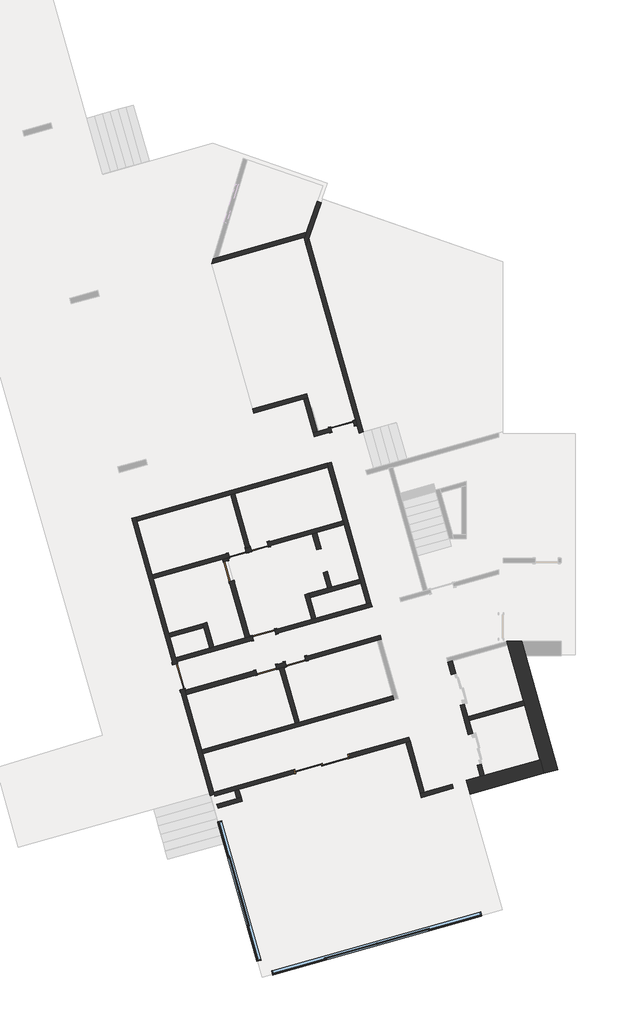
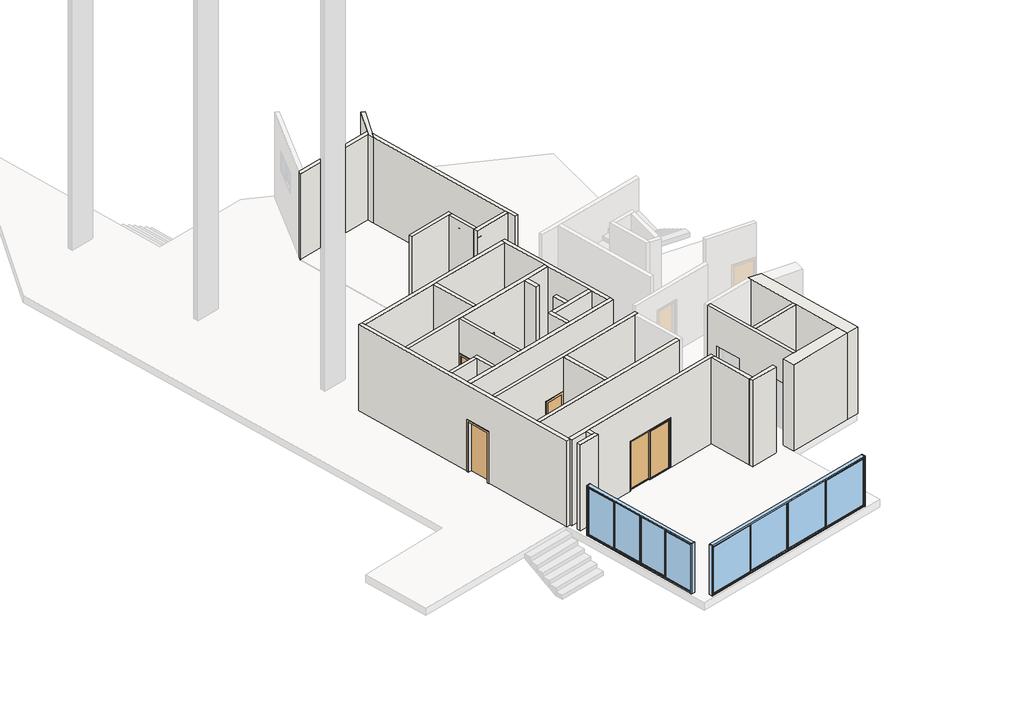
# One storey, part 1 of 2: 31 walls, 9 doors, 2 windows.
"""IFC4 building model written with IfcOpenShell, lengths in millimetres."""

from ifc_helpers import new_model, si_unit, frame, origin, place, context, project, spatial, polyline, outline, extrude, faceted_brep, transform, mapped, element, save
from components import door_0_60_x_2_10_b4560ae4, door_0_60_x_2_10_78c4625d, door_0_90_x_2_10_7c6ad79f, p2_80cm_9d4be4ef, p2_80cm_083652d6, p3_70cm_ef4d15e3, p3_70cm_0a698c7c, p4_correr_200cm_830b8f20, window_5_00_x_2_10m_6df3651b, window_7_50_x_2_10m_947141e8

model = new_model("IFC4")

# Units and contexts
model_context = context("Model", 3, world=origin())
ifc_project = project(units=[si_unit("LENGTHUNIT", "METRE", prefix="MILLI")], contexts=[model_context])

# Site, building, storey
site = spatial("IfcSite", under=ifc_project)
building = spatial("IfcBuilding", under=site)
storey = spatial("IfcBuildingStorey", under=building, Name="Área de Lazer", Elevation=32650.0)

# Doors
placement = place(None, origin())
door_0_60_x_2_10_shape = door_0_60_x_2_10_b4560ae4(model_context)
element("IfcDoor", 1, ObjectType="M_Folha única1 : 0.60 x 2.10", at=placement, inside=storey, context=model_context, shape_type="MappedRepresentation", body=[
    mapped(door_0_60_x_2_10_shape, transform((-84172.7077525, 20336.3698944, 32650.0), x_axis=(0.962362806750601, 0.27176796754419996, 0.0), y_axis=(-0.27176796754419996, 0.962362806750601, 0.0), z_axis=(0.0, 0.0, 1.0))),
])
door_0_60_x_2_10_2_shape = door_0_60_x_2_10_78c4625d(model_context)
element("IfcDoor", 2, ObjectType="M_Folha única1 : 0.60 x 2.10", at=placement, inside=storey, context=model_context, shape_type="MappedRepresentation", body=[
    mapped(door_0_60_x_2_10_2_shape, transform((-83412.4411352, 20551.0665888, 32650.0), x_axis=(-0.962362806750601, -0.27176796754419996, 0.0), y_axis=(0.27176796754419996, -0.962362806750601, 0.0), z_axis=(0.0, 0.0, 1.0))),
])
door_0_90_x_2_10_shape = door_0_90_x_2_10_7c6ad79f(model_context)
element("IfcDoor", 3, ObjectType="M_Folha única1 : 0.90 x 2.10", at=placement, inside=storey, context=model_context, shape_type="MappedRepresentation", body=[
    mapped(door_0_90_x_2_10_shape, transform((-86192.82651, 16064.6639495, 32650.0), x_axis=(0.27176796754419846, -0.9623628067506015, 0.0), y_axis=(0.9623628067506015, 0.27176796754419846, 0.0), z_axis=(0.0, 0.0, 1.0))),
])
p2_80cm_shape = p2_80cm_9d4be4ef(model_context)
element("IfcDoor", 4, ObjectType="M_Folha única1 : P2 - 80CM", at=placement, inside=storey, context=model_context, shape_type="MappedRepresentation", body=[
    mapped(p2_80cm_shape, transform((-83249.025766, 17507.0548871, 32650.0), x_axis=(-0.962362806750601, -0.27176796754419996, 0.0), y_axis=(0.27176796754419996, -0.962362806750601, 0.0), z_axis=(0.0, 0.0, 1.0))),
])
p2_80cm_2_shape = p2_80cm_083652d6(model_context)
element("IfcDoor", 5, ObjectType="M_Folha única1 : P2 - 80CM", at=placement, inside=storey, context=model_context, shape_type="MappedRepresentation", body=[
    mapped(p2_80cm_2_shape, transform((-80543.9086701, 24700.2882904, 32650.0), x_axis=(0.9623628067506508, 0.2717679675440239, 0.0), y_axis=(-0.2717679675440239, 0.9623628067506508, 0.0), z_axis=(0.0, 0.0, 1.0))),
])
p3_70cm_shape = p3_70cm_ef4d15e3(model_context)
element("IfcDoor", 6, ObjectType="M_Folha única1 : P3 - 70CM", at=placement, inside=storey, context=model_context, shape_type="MappedRepresentation", body=[
    mapped(p3_70cm_shape, transform((-82159.496905, 16592.5907765, 32650.0), x_axis=(-0.9623628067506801, -0.2717679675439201, 0.0), y_axis=(0.2717679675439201, -0.9623628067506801, 0.0), z_axis=(0.0, 0.0, 1.0))),
])
element("IfcDoor", 7, ObjectType="M_Folha única1 : P3 - 70CM", at=placement, inside=storey, context=model_context, shape_type="MappedRepresentation", body=[
    mapped(p3_70cm_shape, transform((-84467.9046466, 19707.4749956, 32650.0), x_axis=(-0.27176796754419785, 0.9623628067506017, 0.0), y_axis=(-0.9623628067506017, -0.27176796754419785, 0.0), z_axis=(0.0, 0.0, 1.0))),
])
p3_70cm_2_shape = p3_70cm_0a698c7c(model_context)
element("IfcDoor", 8, ObjectType="M_Folha única1 : P3 - 70CM", at=placement, inside=storey, context=model_context, shape_type="MappedRepresentation", body=[
    mapped(p3_70cm_2_shape, transform((-83169.9778521, 16307.2344106, 32650.0), x_axis=(0.9623628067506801, 0.2717679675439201, 0.0), y_axis=(-0.2717679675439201, 0.9623628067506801, 0.0), z_axis=(0.0, 0.0, 1.0))),
])
p4_correr_200cm_shape = p4_correr_200cm_830b8f20(model_context)
element("IfcDoor", 9, ObjectType="Porta de correr dupla envidraçada sem revestimento : P4 - CORRER - 200CM", at=placement, inside=storey, context=model_context, shape_type="MappedRepresentation", body=[
    mapped(p4_correr_200cm_shape, transform((-81256.8800229, 13054.7382945, 32650.0), x_axis=(-0.9623628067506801, -0.27176796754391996, 0.0), y_axis=(0.27176796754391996, -0.9623628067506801, 0.0), z_axis=(0.0, 0.0, 1.0))),
])

# Walls
element("IfcWall", 10, ObjectType="Básica .15 -  Interna", at=placement, inside=storey, context=model_context, shape_type="Brep", body=[
    faceted_brep([(-81786.9883633, 30940.5321014, 32650.0), (-80088.4591475, 24906.8388654, 32650.0), (-80047.8128589, 24762.4508656, 32650.0), (-79965.5858086, 24470.3553321, 32650.0), (-79965.5858086, 24470.3553321, 36250.0), (-80047.8128589, 24762.4508656, 36250.0), (-80088.4591475, 24906.8388654, 36250.0), (-81786.9883633, 30940.5321014, 36250.0), (-81701.0418755, 31188.7802571, 32650.0), (-81701.0418755, 31188.7802571, 36250.0), (-79821.1978578, 24511.0016068, 36250.0), (-79821.1978578, 24511.0016068, 32650.0)], [[[0, 1, 2, 3, 4, 5, 6, 7]], [[8, 9, 10, 11]], [[3, 2, 1, 0, 8, 11]], [[4, 3, 11, 10]], [[7, 6, 5, 4, 10, 9]], [[0, 7, 9, 8]]]),
])
element("IfcWall", 11, ObjectType="Básica .15 -  Interna", at=placement, inside=storey, context=model_context, shape_type="Brep", body=[
    faceted_brep([(-80088.4591475, 24906.8388654, 32650.0), (-80179.346145, 24881.1726879, 32650.0), (-80179.346145, 24881.1726879, 34750.0), (-80949.2363904, 24663.7583139, 34750.0), (-80949.2363904, 24663.7583139, 32650.0), (-81413.0534441, 24532.7779631, 32650.0), (-81557.4078823, 24492.0127631, 32650.0), (-81557.4078823, 24492.0127631, 36250.0), (-81413.0534441, 24532.7779631, 36250.0), (-80088.4591475, 24906.8388654, 36250.0), (-80138.5809498, 24736.8182669, 34750.0), (-80138.5809498, 24736.8182669, 32650.0), (-80047.8128589, 24762.4508656, 32650.0), (-80047.8128589, 24762.4508656, 36250.0), (-81516.5721347, 24347.6782659, 36250.0), (-81516.5721347, 24347.6782659, 32650.0), (-80908.4711952, 24519.4038929, 32650.0), (-80908.4711952, 24519.4038929, 34750.0)], [[[0, 1, 2, 3, 4, 5, 6, 7, 8, 9]], [[10, 11, 12, 13, 14, 15, 16, 17]], [[16, 15, 6, 5, 4]], [[12, 11, 1, 0]], [[9, 8, 7, 14, 13]], [[7, 6, 15, 14]], [[0, 9, 13, 12]], [[2, 1, 11, 10]], [[3, 2, 10, 17]], [[4, 3, 17, 16]]]),
])
element("IfcWall", 12, ObjectType="Básica .15 -  Interna", at=placement, inside=storey, context=model_context, shape_type="Brep", body=[
    faceted_brep([(-83598.7931938, 25162.3109665, 32650.0), (-81884.0538978, 25646.5474832, 32650.0), (-81739.6994596, 25687.3126832, 32650.0), (-81739.6994596, 25687.3126832, 36250.0), (-81884.0538978, 25646.5474832, 36250.0), (-83598.7931938, 25162.3109665, 36250.0), (-83639.5583889, 25306.6653875, 32650.0), (-83639.5583889, 25306.6653875, 36250.0), (-81780.5352072, 25831.6471804, 36250.0), (-81780.5352072, 25831.6471804, 32650.0)], [[[0, 1, 2, 3, 4, 5]], [[6, 7, 8, 9]], [[2, 1, 0, 6, 9]], [[5, 4, 3, 8, 7]], [[0, 5, 7, 6]], [[3, 2, 9, 8]]]),
])
element("IfcWall", 13, ObjectType="Básica .15 -  Interna", at=placement, inside=storey, context=model_context, shape_type="SweptSolid", body=[
    extrude(outline(polyline([(-81557.4078823, 24492.0127631), (-81884.0538978, 25646.5474832), (-81739.6994596, 25687.3126832), (-81413.0534441, 24532.7779631), (-81557.4078823, 24492.0127631)])), frame((0.0, 0.0, 32650.0), z_axis=(0.0, 0.0, 1.0), x_axis=(1.0, 0.0, 0.0)), (0.0, 0.0, 1.0), 3600.0),
])
element("IfcWall", 14, ObjectType="Básica .15 -  Interna", at=placement, inside=storey, context=model_context, shape_type="Brep", body=[
    faceted_brep([(-81786.1608388, 31401.4141059, 32650.0), (-84835.9383396, 30540.1673629, 32650.0), (-85007.1370087, 30491.8214439, 32650.0), (-85007.1370087, 30491.8214439, 36250.0), (-84835.9383396, 30540.1673629, 36250.0), (-81786.1608388, 31401.4141059, 36250.0), (-81845.9712553, 31228.6574759, 32650.0), (-81845.9712553, 31228.6574759, 36250.0), (-85058.4086835, 30321.4761254, 36250.0), (-85058.4086835, 30321.4761254, 32650.0)], [[[0, 1, 2, 3, 4, 5]], [[6, 7, 8, 9]], [[2, 1, 0, 6, 9]], [[5, 4, 3, 8, 7]], [[3, 2, 9, 8]], [[0, 5, 7, 6]]]),
])
element("IfcWall", 15, ObjectType="Básica .15 - Externa", at=placement, inside=storey, context=model_context, shape_type="Brep", body=[
    faceted_brep([(-86142.7081351, 15611.2180889, 34750.0), (-86142.7081351, 15611.2180889, 32650.0), (-85113.2313311, 11965.717865, 32650.0), (-85113.2313311, 11965.717865, 36250.0), (-87814.192223, 21530.1427245, 36250.0), (-87814.192223, 21530.1427245, 32650.0), (-86387.2993059, 16477.3446149, 32650.0), (-86387.2993059, 16477.3446149, 34750.0), (-84968.8769101, 12006.4830601, 32650.0), (-84989.2595077, 12078.6602706, 32650.0), (-85363.2517168, 13403.0113166, 32650.0), (-85404.0169119, 13547.3657376, 32650.0), (-85940.4473941, 15446.9300942, 32650.0), (-85981.2125892, 15591.2845152, 32650.0), (-85998.3537141, 15651.983284, 32650.0), (-85998.3537141, 15651.983284, 34750.0), (-86242.9448849, 16518.1098101, 34750.0), (-86242.9448849, 16518.1098101, 32650.0), (-86260.0860097, 16578.8085788, 32650.0), (-86300.8512048, 16723.1629998, 32650.0), (-86499.2418212, 17425.6878488, 32650.0), (-86540.0070163, 17570.0422698, 32650.0), (-87068.2844594, 19440.7357422, 32650.0), (-87109.0496545, 19585.0901632, 32650.0), (-87629.0726068, 21426.5534986, 32650.0), (-87669.837802, 21570.9079196, 32650.0), (-87669.837802, 21570.9079196, 36250.0), (-87629.0726068, 21426.5534986, 36250.0), (-87109.0496545, 19585.0901632, 36250.0), (-87068.2844594, 19440.7357422, 36250.0), (-86540.0070163, 17570.0422698, 36250.0), (-86499.2418212, 17425.6878488, 36250.0), (-86300.8512048, 16723.1629998, 36250.0), (-86260.0860097, 16578.8085788, 36250.0), (-85981.2125892, 15591.2845152, 36250.0), (-85940.4473941, 15446.9300942, 36250.0), (-85404.0169119, 13547.3657376, 36250.0), (-85363.2517168, 13403.0113166, 36250.0), (-84989.2595077, 12078.6602706, 36250.0), (-84968.8769101, 12006.4830601, 36250.0)], [[[0, 1, 2, 3, 4, 5, 6, 7]], [[8, 9, 10, 11, 12, 13, 14, 15, 16, 17, 18, 19, 20, 21, 22, 23, 24, 25, 26, 27, 28, 29, 30, 31, 32, 33, 34, 35, 36, 37, 38, 39]], [[6, 5, 25, 24, 23, 22, 21, 20, 19, 18, 17]], [[2, 1, 14, 13, 12, 11, 10, 9, 8]], [[3, 2, 8, 39]], [[4, 3, 39, 38, 37, 36, 35, 34, 33, 32, 31, 30, 29, 28, 27, 26]], [[5, 4, 26, 25]], [[15, 14, 1, 0]], [[16, 15, 0, 7]], [[17, 16, 7, 6]]]),
])
element("IfcWall", 16, ObjectType="Básica .15 -  Interna", at=placement, inside=storey, context=model_context, shape_type="Brep", body=[
    faceted_brep([(-86260.0860097, 16578.8085788, 32650.0), (-83613.5882911, 17326.1704896, 32650.0), (-83613.5882911, 17326.1704896, 34750.0), (-82843.6980457, 17543.5848636, 34750.0), (-82843.6980457, 17543.5848636, 32650.0), (-79523.5463625, 18481.1843516, 32650.0), (-79523.5463625, 18481.1843516, 36250.0), (-86260.0860097, 16578.8085788, 36250.0), (-83654.3534863, 17470.5249106, 34750.0), (-83654.3534863, 17470.5249106, 32650.0), (-83750.589767, 17443.3481138, 32650.0), (-83894.944188, 17402.5829187, 32650.0), (-84986.2353871, 17094.4060138, 32650.0), (-85130.5898082, 17053.6408186, 32650.0), (-86300.8512048, 16723.1629998, 32650.0), (-86300.8512048, 16723.1629998, 36250.0), (-85130.5898082, 17053.6408186, 36250.0), (-84986.2353871, 17094.4060138, 36250.0), (-83894.944188, 17402.5829187, 36250.0), (-83750.589767, 17443.3481138, 36250.0), (-81605.5069404, 18049.1121728, 36250.0), (-81461.1525194, 18089.8773679, 36250.0), (-79708.6659786, 18584.7735775, 36250.0), (-79564.3115576, 18625.5387727, 36250.0), (-79564.3115576, 18625.5387727, 32650.0), (-79708.6659786, 18584.7735775, 32650.0), (-81461.1525194, 18089.8773679, 32650.0), (-81605.5069404, 18049.1121728, 32650.0), (-82884.4632409, 17687.9392846, 32650.0), (-82884.4632409, 17687.9392846, 34750.0)], [[[0, 1, 2, 3, 4, 5, 6, 7]], [[8, 9, 10, 11, 12, 13, 14, 15, 16, 17, 18, 19, 20, 21, 22, 23, 24, 25, 26, 27, 28, 29]], [[28, 27, 26, 25, 24, 5, 4]], [[14, 13, 12, 11, 10, 9, 1, 0]], [[7, 6, 23, 22, 21, 20, 19, 18, 17, 16, 15]], [[6, 5, 24, 23]], [[0, 7, 15, 14]], [[2, 1, 9, 8]], [[3, 2, 8, 29]], [[4, 3, 29, 28]]]),
])
element("IfcWall", 17, ObjectType="Básica .15 -  Interna", at=placement, inside=storey, context=model_context, shape_type="Brep", body=[
    faceted_brep([(-79564.3115576, 18625.5387727, 32650.0), (-80933.2981547, 23473.2836924, 32650.0), (-80933.2981547, 23473.2836924, 36250.0), (-79564.3115576, 18625.5387727, 36250.0), (-79708.6659786, 18584.7735775, 32650.0), (-79708.6659786, 18584.7735775, 36250.0), (-79907.0565949, 19287.2984265, 36250.0), (-79947.82179, 19431.6528475, 36250.0), (-80476.0992332, 21302.3463199, 36250.0), (-80516.8644283, 21446.7007409, 36250.0), (-81036.8873806, 23288.1640763, 36250.0), (-81077.6525757, 23432.5184973, 36250.0), (-81077.6525757, 23432.5184973, 32650.0), (-81036.8873806, 23288.1640763, 32650.0), (-80516.8644283, 21446.7007409, 32650.0), (-80476.0992332, 21302.3463199, 32650.0), (-79947.82179, 19431.6528475, 32650.0), (-79907.0565949, 19287.2984265, 32650.0)], [[[0, 1, 2, 3]], [[4, 5, 6, 7, 8, 9, 10, 11, 12, 13, 14, 15, 16, 17]], [[1, 0, 4, 17, 16, 15, 14, 13, 12]], [[3, 2, 11, 10, 9, 8, 7, 6, 5]], [[0, 3, 5, 4]], [[2, 1, 12, 11]]]),
])
element("IfcWall", 18, ObjectType="Básica .15 -  Interna", at=placement, inside=storey, context=model_context, shape_type="Brep", body=[
    faceted_brep([(-81077.6525757, 23432.5184973, 32650.0), (-87669.837802, 21570.9079196, 32650.0), (-87669.837802, 21570.9079196, 36250.0), (-81077.6525757, 23432.5184973, 36250.0), (-81036.8873806, 23288.1640763, 32650.0), (-81036.8873806, 23288.1640763, 36250.0), (-84260.8027832, 22377.741385, 36250.0), (-84405.1572042, 22336.9761899, 36250.0), (-87629.0726068, 21426.5534986, 36250.0), (-87629.0726068, 21426.5534986, 32650.0), (-84405.1572042, 22336.9761899, 32650.0), (-84260.8027832, 22377.741385, 32650.0)], [[[0, 1, 2, 3]], [[4, 5, 6, 7, 8, 9, 10, 11]], [[1, 0, 4, 11, 10, 9]], [[3, 2, 8, 7, 6, 5]], [[2, 1, 9, 8]], [[0, 3, 5, 4]]]),
])
element("IfcWall", 19, ObjectType="Básica .15 -  Interna", at=placement, inside=storey, context=model_context, shape_type="Brep", body=[
    faceted_brep([(-82812.7682722, 16330.1759887, 32650.0), (-82716.5319915, 16357.3527855, 32650.0), (-82572.1775705, 16398.1179806, 32650.0), (-82475.9412898, 16425.2947774, 32650.0), (-82475.9412898, 16425.2947774, 34750.0), (-81802.2873251, 16615.5323547, 34750.0), (-81802.2873251, 16615.5323547, 32650.0), (-79348.2621678, 17308.5406719, 32650.0), (-79203.9077468, 17349.305867, 32650.0), (-79203.9077468, 17349.305867, 36250.0), (-79348.2621678, 17308.5406719, 36250.0), (-82572.1775705, 16398.1179806, 36250.0), (-82716.5319915, 16357.3527855, 36250.0), (-85940.4473941, 15446.9300942, 36250.0), (-85940.4473941, 15446.9300942, 32650.0), (-83486.4222369, 16139.9384115, 32650.0), (-83486.4222369, 16139.9384115, 34750.0), (-82812.7682722, 16330.1759887, 34750.0), (-82516.7064849, 16569.6491984, 34750.0), (-82516.7064849, 16569.6491984, 32650.0), (-82853.5334673, 16474.5304097, 32650.0), (-82853.5334673, 16474.5304097, 34750.0), (-83527.187432, 16284.2928325, 34750.0), (-83527.187432, 16284.2928325, 32650.0), (-85981.2125892, 15591.2845152, 32650.0), (-85981.2125892, 15591.2845152, 36250.0), (-79244.672942, 17493.660288, 36250.0), (-79244.672942, 17493.660288, 32650.0), (-81843.0525202, 16759.8867757, 32650.0), (-81843.0525202, 16759.8867757, 34750.0)], [[[0, 1, 2, 3, 4, 5, 6, 7, 8, 9, 10, 11, 12, 13, 14, 15, 16, 17]], [[18, 19, 20, 21, 22, 23, 24, 25, 26, 27, 28, 29]], [[15, 14, 24, 23]], [[28, 27, 8, 7, 6]], [[20, 19, 3, 2, 1, 0]], [[13, 12, 11, 10, 9, 26, 25]], [[9, 8, 27, 26]], [[14, 13, 25, 24]], [[21, 20, 0, 17]], [[22, 21, 17, 16]], [[23, 22, 16, 15]], [[4, 3, 19, 18]], [[5, 4, 18, 29]], [[6, 5, 29, 28]]]),
])
element("IfcWall", 20, ObjectType="Básica .15 -  Interna", at=placement, inside=storey, context=model_context, shape_type="Brep", body=[
    faceted_brep([(-78811.8316857, 15408.9763152, 32650.0), (-82035.7470883, 14498.553624, 32650.0), (-82180.1015093, 14457.7884288, 32650.0), (-85404.0169119, 13547.3657376, 32650.0), (-85404.0169119, 13547.3657376, 36250.0), (-82180.1015093, 14457.7884288, 36250.0), (-82035.7470883, 14498.553624, 36250.0), (-78811.8316857, 15408.9763152, 36250.0), (-78771.0664906, 15264.6218942, 32650.0), (-78771.0664906, 15264.6218942, 36250.0), (-85363.2517168, 13403.0113166, 36250.0), (-85363.2517168, 13403.0113166, 32650.0)], [[[0, 1, 2, 3, 4, 5, 6, 7]], [[8, 9, 10, 11]], [[3, 2, 1, 0, 8, 11]], [[7, 6, 5, 4, 10, 9]], [[0, 7, 9, 8]], [[4, 3, 11, 10]]]),
])
element("IfcWall", 21, ObjectType="Básica .15 -  Interna", at=placement, inside=storey, context=model_context, shape_type="Brep", body=[
    faceted_brep([(-84832.9929264, 11525.3016567, 32650.0), (-84001.1843782, 11760.2015478, 32650.0), (-84001.1843782, 11760.2015478, 36250.0), (-84832.9929264, 11525.3016567, 36250.0), (-84873.7581215, 11669.6560777, 32650.0), (-84873.7581215, 11669.6560777, 36250.0), (-84186.3039943, 11863.7907737, 36250.0), (-84041.9495733, 11904.5559688, 36250.0), (-84041.9495733, 11904.5559688, 32650.0), (-84186.3039943, 11863.7907737, 32650.0)], [[[0, 1, 2, 3]], [[4, 5, 6, 7, 8, 9]], [[1, 0, 4, 9, 8]], [[3, 2, 7, 6, 5]], [[2, 1, 8, 7]], [[0, 3, 5, 4]]]),
])
element("IfcWall", 22, ObjectType="Básica .15 -  Interna", at=placement, inside=storey, context=model_context, shape_type="SweptSolid", body=[
    extrude(outline(polyline([(-84116.6857644, 12169.2057407), (-84041.9495733, 11904.5559688), (-84186.3039943, 11863.7907737), (-84261.0401854, 12128.4405456), (-84116.6857644, 12169.2057407)])), frame((0.0, 0.0, 32650.0), z_axis=(0.0, 0.0, 1.0), x_axis=(1.0, 0.0, 0.0)), (0.0, 0.0, 1.0), 3600.0),
])
element("IfcWall", 23, ObjectType="Básica .15 -  Interna", at=placement, inside=storey, context=model_context, shape_type="Brep", body=[
    faceted_brep([(-78211.9546653, 13836.6816224, 36250.0), (-78356.3090863, 13795.9164273, 36250.0), (-84116.6857644, 12169.2057407, 36250.0), (-84261.0401854, 12128.4405456, 36250.0), (-84948.4943126, 11934.3058496, 36250.0), (-84948.4943126, 11934.3058496, 32650.0), (-84261.0401854, 12128.4405456, 32650.0), (-84116.6857644, 12169.2057407, 32650.0), (-82198.8602321, 12710.7931164, 32650.0), (-82198.8602321, 12710.7931164, 34750.0), (-80274.1346186, 13254.3290515, 34750.0), (-80274.1346186, 13254.3290515, 32650.0), (-78356.3090863, 13795.9164273, 32650.0), (-78211.9546653, 13836.6816224, 32650.0), (-84989.2595077, 12078.6602706, 36250.0), (-78252.7198604, 13981.0360434, 36250.0), (-78252.7198604, 13981.0360434, 32650.0), (-80314.8998137, 13398.6834725, 32650.0), (-80314.8998137, 13398.6834725, 34750.0), (-82239.6254272, 12855.1475374, 34750.0), (-82239.6254272, 12855.1475374, 32650.0), (-84989.2595077, 12078.6602706, 32650.0), (-84968.8769101, 12006.4830601, 32650.0), (-84968.8769101, 12006.4830601, 36250.0)], [[[0, 1, 2, 3, 4, 5, 6, 7, 8, 9, 10, 11, 12, 13]], [[14, 15, 16, 17, 18, 19, 20, 21]], [[16, 13, 12, 11, 17]], [[5, 22, 21, 20, 8, 7, 6]], [[4, 3, 2, 1, 0, 15, 14, 23]], [[0, 13, 16, 15]], [[19, 9, 8, 20]], [[9, 19, 18, 10]], [[10, 18, 17, 11]], [[5, 4, 23, 14, 21, 22]]]),
])
element("IfcWall", 24, ObjectType="Básica .15 -  Interna", at=placement, inside=storey, context=model_context, shape_type="Brep", body=[
    faceted_brep([(-76753.6153178, 12352.1374676, 32650.0), (-77715.9781245, 12080.3695001, 32650.0), (-77860.3325455, 12039.6043049, 32650.0), (-77860.3325455, 12039.6043049, 36250.0), (-77715.9781245, 12080.3695001, 36250.0), (-76753.6153178, 12352.1374676, 36250.0), (-76712.8501227, 12207.7830466, 32650.0), (-76712.8501227, 12207.7830466, 36250.0), (-77819.5673504, 11895.2498839, 36250.0), (-77819.5673504, 11895.2498839, 32650.0)], [[[0, 1, 2, 3, 4, 5]], [[6, 7, 8, 9]], [[2, 1, 0, 6, 9]], [[5, 4, 3, 8, 7]], [[3, 2, 9, 8]], [[0, 5, 7, 6]]]),
])
element("IfcWall", 25, ObjectType="Básica .15 -  Interna", at=placement, inside=storey, context=model_context, shape_type="SweptSolid", body=[
    extrude(outline(polyline([(-78211.9546653, 13836.6816224), (-77715.9781245, 12080.3695001), (-77860.3325455, 12039.6043049), (-78356.3090863, 13795.9164273), (-78211.9546653, 13836.6816224)])), frame((0.0, 0.0, 32650.0), z_axis=(0.0, 0.0, 1.0), x_axis=(1.0, 0.0, 0.0)), (0.0, 0.0, 1.0), 3600.0),
])
element("IfcWall", 26, ObjectType="Básica .15 -  Interna", at=placement, inside=storey, context=model_context, shape_type="Brep", body=[
    faceted_brep([(-83863.6163129, 20345.7230742, 32650.0), (-83680.7673796, 20397.358988, 32650.0), (-83680.7673796, 20397.358988, 34750.0), (-83103.3496956, 20560.4197685, 34750.0), (-83103.3496956, 20560.4197685, 32650.0), (-81582.8164609, 20989.8131572, 32650.0), (-81438.4620399, 21030.5783524, 32650.0), (-80476.0992332, 21302.3463199, 32650.0), (-80476.0992332, 21302.3463199, 36250.0), (-81438.4620399, 21030.5783524, 36250.0), (-81582.8164609, 20989.8131572, 36250.0), (-84518.0230215, 20160.9208562, 36250.0), (-84662.3774425, 20120.1556611, 36250.0), (-87068.2844594, 19440.7357422, 36250.0), (-87068.2844594, 19440.7357422, 32650.0), (-84662.3774425, 20120.1556611, 32650.0), (-84518.0230215, 20160.9208562, 32650.0), (-84441.033997, 20182.6622936, 32650.0), (-84441.033997, 20182.6622936, 34750.0), (-83863.6163129, 20345.7230742, 34750.0), (-83721.5325748, 20541.713409, 34750.0), (-83721.5325748, 20541.713409, 32650.0), (-83740.7798309, 20536.2780496, 32650.0), (-83885.1342519, 20495.5128545, 32650.0), (-83904.3815081, 20490.0774952, 32650.0), (-83904.3815081, 20490.0774952, 34750.0), (-84481.7991921, 20327.0167146, 34750.0), (-84481.7991921, 20327.0167146, 32650.0), (-87109.0496545, 19585.0901632, 32650.0), (-87109.0496545, 19585.0901632, 36250.0), (-83885.1342519, 20495.5128545, 36250.0), (-83740.7798309, 20536.2780496, 36250.0), (-80516.8644283, 21446.7007409, 36250.0), (-80516.8644283, 21446.7007409, 32650.0), (-83144.1148907, 20704.7741895, 32650.0), (-83144.1148907, 20704.7741895, 34750.0)], [[[0, 1, 2, 3, 4, 5, 6, 7, 8, 9, 10, 11, 12, 13, 14, 15, 16, 17, 18, 19]], [[20, 21, 22, 23, 24, 25, 26, 27, 28, 29, 30, 31, 32, 33, 34, 35]], [[17, 16, 15, 14, 28, 27]], [[34, 33, 7, 6, 5, 4]], [[24, 23, 22, 21, 1, 0]], [[13, 12, 11, 10, 9, 8, 32, 31, 30, 29]], [[14, 13, 29, 28]], [[8, 7, 33, 32]], [[25, 24, 0, 19]], [[26, 25, 19, 18]], [[27, 26, 18, 17]], [[2, 1, 21, 20]], [[3, 2, 20, 35]], [[4, 3, 35, 34]]]),
])
element("IfcWall", 27, ObjectType="Básica .15 -  Interna", at=placement, inside=storey, context=model_context, shape_type="SweptSolid", body=[
    extrude(outline(polyline([(-3.9811097, 0.0), (96.0188903, 0.0), (96.0188903, -2100.0), (796.0188903, -2100.0), (796.0188903, 0.0), (2819.873598, 0.0), (2819.873598, -3600.0), (-3.9811097, -3600.0), (-3.9811097, 0.0)])), frame((-84661.2955044, 20116.3243892, 32650.0), z_axis=(0.9623628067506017, 0.27176796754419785, 0.0), x_axis=(0.27176796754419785, -0.9623628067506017, 0.0)), (0.0, 0.0, 1.0), 150.0),
])
element("IfcWall", 28, ObjectType="Básica .15 -  Interna", at=placement, inside=storey, context=model_context, shape_type="Brep", body=[
    faceted_brep([(-81461.1525194, 18089.8773679, 32650.0), (-81659.5431357, 18792.4022168, 32650.0), (-81700.3083308, 18936.7566379, 32650.0), (-81700.3083308, 18936.7566379, 36250.0), (-81659.5431357, 18792.4022168, 36250.0), (-81461.1525194, 18089.8773679, 36250.0), (-81605.5069404, 18049.1121728, 32650.0), (-81605.5069404, 18049.1121728, 36250.0), (-81844.6627518, 18895.9914427, 36250.0), (-81844.6627518, 18895.9914427, 32650.0)], [[[0, 1, 2, 3, 4, 5]], [[6, 7, 8, 9]], [[2, 1, 0, 6, 9]], [[5, 4, 3, 8, 7]], [[0, 5, 7, 6]], [[3, 2, 9, 8]]]),
])
element("IfcWall", 29, ObjectType="Básica .15 -  Interna", at=placement, inside=storey, context=model_context, shape_type="Brep", body=[
    faceted_brep([(-81659.5431357, 18792.4022168, 32650.0), (-79907.0565949, 19287.2984265, 32650.0), (-79907.0565949, 19287.2984265, 36250.0), (-81659.5431357, 18792.4022168, 36250.0), (-81700.3083308, 18936.7566379, 32650.0), (-81700.3083308, 18936.7566379, 36250.0), (-81054.5390178, 19119.1196848, 36250.0), (-80910.1845968, 19159.8848799, 36250.0), (-79947.82179, 19431.6528475, 36250.0), (-79947.82179, 19431.6528475, 32650.0), (-80910.1845968, 19159.8848799, 32650.0), (-81054.5390178, 19119.1196848, 32650.0)], [[[0, 1, 2, 3]], [[4, 5, 6, 7, 8, 9, 10, 11]], [[1, 0, 4, 11, 10, 9]], [[3, 2, 8, 7, 6, 5]], [[0, 3, 5, 4]], [[2, 1, 9, 8]]]),
])
element("IfcWall", 30, ObjectType="Básica .15 -  Interna", at=placement, inside=storey, context=model_context, shape_type="Brep", body=[
    faceted_brep([(-84986.2353871, 17094.4060138, 32650.0), (-85225.3911986, 17941.2852837, 32650.0), (-85225.3911986, 17941.2852837, 36250.0), (-84986.2353871, 17094.4060138, 36250.0), (-85130.5898082, 17053.6408186, 32650.0), (-85130.5898082, 17053.6408186, 36250.0), (-85328.9804245, 17756.1656676, 36250.0), (-85369.7456196, 17900.5200886, 36250.0), (-85369.7456196, 17900.5200886, 32650.0), (-85328.9804245, 17756.1656676, 32650.0)], [[[0, 1, 2, 3]], [[4, 5, 6, 7, 8, 9]], [[1, 0, 4, 9, 8]], [[3, 2, 7, 6, 5]], [[0, 3, 5, 4]], [[2, 1, 8, 7]]]),
])
element("IfcWall", 31, ObjectType="Básica .15 -  Interna", at=placement, inside=storey, context=model_context, shape_type="SweptSolid", body=[
    extrude(outline(polyline([(-86540.0070163, 17570.0422698), (-85369.7456196, 17900.5200886), (-85328.9804245, 17756.1656676), (-86499.2418212, 17425.6878488), (-86540.0070163, 17570.0422698)])), frame((0.0, 0.0, 32650.0), z_axis=(0.0, 0.0, 1.0), x_axis=(1.0, 0.0, 0.0)), (0.0, 0.0, 1.0), 3600.0),
])
element("IfcWall", 32, ObjectType="Básica .15 -  Interna", at=placement, inside=storey, context=model_context, shape_type="SweptSolid", body=[
    extrude(outline(polyline([(-83885.1342519, 20495.5128545), (-84405.1572042, 22336.9761899), (-84260.8027832, 22377.741385), (-83740.7798309, 20536.2780496), (-83885.1342519, 20495.5128545)])), frame((0.0, 0.0, 32650.0), z_axis=(0.0, 0.0, 1.0), x_axis=(1.0, 0.0, 0.0)), (0.0, 0.0, 1.0), 3600.0),
])
element("IfcWall", 33, ObjectType="Básica .15 -  Interna", at=placement, inside=storey, context=model_context, shape_type="SweptSolid", body=[
    extrude(outline(polyline([(-82180.1015093, 14457.7884288), (-82716.5319915, 16357.3527855), (-82572.1775705, 16398.1179806), (-82035.7470883, 14498.553624), (-82180.1015093, 14457.7884288)])), frame((0.0, 0.0, 32650.0), z_axis=(0.0, 0.0, 1.0), x_axis=(1.0, 0.0, 0.0)), (0.0, 0.0, 1.0), 3600.0),
])
element("IfcWall", 34, ObjectType="Contenção 50cm - Externa", at=placement, inside=storey, context=model_context, shape_type="Brep", body=[
    faceted_brep([(-74880.8336236, 17296.1835253, 32650.0), (-74840.1397102, 17152.0815214, 32650.0), (-74296.6037751, 15227.3559079, 32650.0), (-74255.83858, 15083.0014869, 32650.0), (-73726.0904517, 13207.1001426, 32650.0), (-73590.2064679, 12725.9187392, 32650.0), (-73590.2064679, 12725.9187392, 36250.0), (-73726.0904517, 13207.1001426, 36250.0), (-74255.83858, 15083.0014869, 36250.0), (-74296.6037751, 15227.3559079, 36250.0), (-74840.1397102, 17152.0815214, 36250.0), (-74880.8336236, 17296.1835253, 36250.0), (-74361.2790477, 17296.1835253, 32650.0), (-74361.2790477, 17296.1835253, 36250.0), (-74220.0807565, 16796.1835253, 36250.0), (-73109.0250645, 12861.802723, 36250.0), (-73109.0250645, 12861.802723, 32650.0), (-74220.0807565, 16796.1835253, 32650.0)], [[[0, 1, 2, 3, 4, 5, 6, 7, 8, 9, 10, 11]], [[12, 13, 14, 15, 16, 17]], [[5, 4, 3, 2, 1, 0, 12, 17, 16]], [[11, 10, 9, 8, 7, 6, 15, 14, 13]], [[0, 11, 13, 12]], [[6, 5, 16, 15]]]),
])
element("IfcWall", 35, ObjectType="Básica .15 -  Interna", at=placement, inside=storey, context=model_context, shape_type="SweptSolid", body=[
    extrude(outline(polyline([(-74255.83858, 15083.0014869), (-76176.6462183, 14540.5719746), (-76217.4114135, 14684.9263956), (-74296.6037751, 15227.3559079), (-74255.83858, 15083.0014869)])), frame((0.0, 0.0, 32650.0), z_axis=(0.0, 0.0, 1.0), x_axis=(1.0, 0.0, 0.0)), (0.0, 0.0, 1.0), 3600.0),
])
element("IfcWall", 36, ObjectType="Básica .15 -  Interna", at=placement, inside=storey, context=model_context, shape_type="Brep", body=[
    faceted_brep([(-76054.350633, 14107.5087115, 34775.0), (-76054.350633, 14107.5087115, 32650.0), (-76176.6462183, 14540.5719746, 32650.0), (-76217.4114135, 14684.9263956, 32650.0), (-76339.7069989, 15117.9896586, 32650.0), (-76339.7069989, 15117.9896586, 34775.0), (-76638.6517632, 16176.588746, 34775.0), (-76638.6517632, 16176.588746, 32650.0), (-76760.9473486, 16609.6520091, 32650.0), (-76760.9473486, 16609.6520091, 36250.0), (-76217.4114135, 14684.9263956, 36250.0), (-76176.6462183, 14540.5719746, 36250.0), (-75646.89809, 12664.6706303, 36250.0), (-75646.89809, 12664.6706303, 32650.0), (-75755.4058687, 13048.9096241, 32650.0), (-75755.4058687, 13048.9096241, 34775.0), (-76484.0614199, 15077.2244635, 32650.0), (-76198.705054, 14066.7435164, 32650.0), (-76198.705054, 14066.7435164, 34775.0), (-75899.7602897, 13008.144429, 34775.0), (-75899.7602897, 13008.144429, 32650.0), (-75791.252511, 12623.9054352, 32650.0), (-75791.252511, 12623.9054352, 36250.0), (-76905.3017696, 16568.8868139, 36250.0), (-76905.3017696, 16568.8868139, 32650.0), (-76783.0061842, 16135.8235509, 32650.0), (-76783.0061842, 16135.8235509, 34775.0), (-76484.0614199, 15077.2244635, 34775.0)], [[[0, 1, 2, 3, 4, 5, 6, 7, 8, 9, 10, 11, 12, 13, 14, 15]], [[16, 17, 18, 19, 20, 21, 22, 23, 24, 25, 26, 27]], [[25, 24, 8, 7]], [[14, 13, 21, 20]], [[4, 3, 2, 1, 17, 16]], [[12, 11, 10, 9, 23, 22]], [[9, 8, 24, 23]], [[7, 6, 26, 25]], [[5, 4, 16, 27]], [[6, 5, 27, 26]], [[20, 19, 15, 14]], [[18, 17, 1, 0]], [[19, 18, 0, 15]], [[13, 12, 22, 21]]]),
])
element("IfcWall", 37, ObjectType="Básica .15 -  Interna", at=placement, inside=storey, context=model_context, shape_type="SweptSolid", body=[
    extrude(outline(polyline([(-81427.9087194, 20441.2663574), (-81582.8164609, 20989.8131572), (-81438.4620399, 21030.5783524), (-81283.5542984, 20482.0315525), (-81427.9087194, 20441.2663574)])), frame((0.0, 0.0, 32650.0), z_axis=(0.0, 0.0, 1.0), x_axis=(1.0, 0.0, 0.0)), (0.0, 0.0, 1.0), 3600.0),
])
element("IfcWall", 38, ObjectType="Básica .15 -  Interna", at=placement, inside=storey, context=model_context, shape_type="SweptSolid", body=[
    extrude(outline(polyline([(-81054.5390178, 19119.1196848), (-81206.7290796, 19658.0428566), (-81062.3746586, 19698.8080517), (-80910.1845968, 19159.8848799), (-81054.5390178, 19119.1196848)])), frame((0.0, 0.0, 32650.0), z_axis=(0.0, 0.0, 1.0), x_axis=(1.0, 0.0, 0.0)), (0.0, 0.0, 1.0), 3600.0),
])
element("IfcWall", 39, ObjectType="Básica .15 -  Interna", at=placement, inside=storey, context=model_context, shape_type="Brep", body=[
    faceted_brep([(-81415.5876016, 32471.7792253, 32650.0), (-81786.1608388, 31401.4141059, 32650.0), (-81845.9712553, 31228.6574759, 32650.0), (-81858.1749087, 31193.4083979, 32650.0), (-81858.1749087, 31193.4083979, 36250.0), (-81845.9712553, 31228.6574759, 36250.0), (-81786.1608388, 31401.4141059, 36250.0), (-81415.5876016, 32471.7792253, 36250.0), (-81273.8509521, 32422.6801124, 32650.0), (-81273.8509521, 32422.6801124, 36250.0), (-81701.0418755, 31188.7802571, 36250.0), (-81786.9883633, 30940.5321014, 36250.0), (-81786.9883633, 30940.5321014, 32650.0), (-81701.0418755, 31188.7802571, 32650.0)], [[[0, 1, 2, 3, 4, 5, 6, 7]], [[8, 9, 10, 11, 12, 13]], [[3, 2, 1, 0, 8, 13, 12]], [[7, 6, 5, 4, 11, 10, 9]], [[4, 3, 12, 11]], [[0, 7, 9, 8]]]),
])
element("IfcWall", 40, ObjectType="Contenção 50cm - Externa", at=placement, inside=storey, context=model_context, shape_type="Brep", body=[
    faceted_brep([(-76136.5499306, 12006.840048, 32650.0), (-73590.2064679, 12725.9187392, 32650.0), (-73590.2064679, 12725.9187392, 36250.0), (-76136.5499306, 12006.840048, 36250.0), (-76272.4339144, 12488.0214514, 32650.0), (-76272.4339144, 12488.0214514, 36250.0), (-75791.252511, 12623.9054352, 36250.0), (-75646.89809, 12664.6706303, 36250.0), (-73726.0904517, 13207.1001426, 36250.0), (-73726.0904517, 13207.1001426, 32650.0), (-75646.89809, 12664.6706303, 32650.0), (-75791.252511, 12623.9054352, 32650.0)], [[[0, 1, 2, 3]], [[4, 5, 6, 7, 8, 9, 10, 11]], [[1, 0, 4, 11, 10, 9]], [[3, 2, 8, 7, 6, 5]], [[0, 3, 5, 4]], [[2, 1, 9, 8]]]),
])

# Windows
window_5_00_x_2_10m_shape = window_5_00_x_2_10m_6df3651b(model_context)
element("IfcWindow", 41, ObjectType="Janela correr - vidro c.perfil 4 folhas centrais : 5.00 x 2.10m", at=placement, inside=storey, context=model_context, shape_type="MappedRepresentation", body=[
    mapped(window_5_00_x_2_10m_shape, transform((-84103.4546326, 8665.9487792, 31750.0), x_axis=(-0.27176796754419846, 0.9623628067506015, 0.0), y_axis=(-0.9623628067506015, -0.27176796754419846, 0.0), z_axis=(0.0, 0.0, 1.0))),
])
window_7_50_x_2_10m_shape = window_7_50_x_2_10m_947141e8(model_context)
element("IfcWindow", 42, ObjectType="Janela correr - vidro c.perfil 4 folhas centrais : 7.50 x 2.10m", at=placement, inside=storey, context=model_context, shape_type="MappedRepresentation", body=[
    mapped(window_7_50_x_2_10m_shape, transform((-79359.7280933, 6862.2557565, 31750.0), x_axis=(-0.9623628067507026, -0.27176796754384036, 0.0), y_axis=(0.27176796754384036, -0.9623628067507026, 0.0), z_axis=(0.0, 0.0, 1.0))),
])

save(model, "model.ifc")
